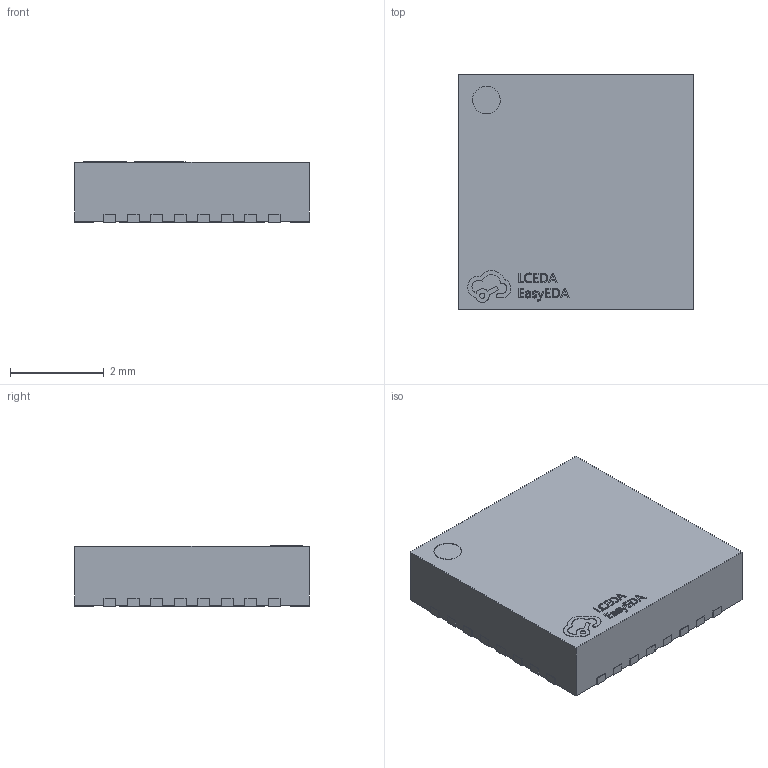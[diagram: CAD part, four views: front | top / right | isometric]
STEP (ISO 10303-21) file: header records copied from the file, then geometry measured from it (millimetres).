
FILE_DESCRIPTION(('Designed by EasyEDA Pro'),'2;1');
FILE_NAME('Open CASCADE Shape Model','2024-08-31T16:36:57',('Author'),( 'Open CASCADE'),'Open CASCADE STEP processor 7.6','Open CASCADE 7.8' ,'Unknown');
FILE_SCHEMA(('AUTOMOTIVE_DESIGN_CC2 { 1 2 10303 214 -1 1 5 4 }'));
Length unit declared in the file: millimetre
Products named in the file (4): PCBModel; u3tk-U1; QFN-32_L5.0-W5.0-P0.50-TL-EP3.1; SOLID
Assembly tree (3 placements, depth 4):
  PCBModel
    u3tk-U1
      QFN-32_L5.0-W5.0-P0.50-TL-EP3.1
        SOLID
Bounding box: 5.02 x 5.02 x 1.28 mm (x, y, z)
Volume: 31.5 mm3; surface area: 76.5 mm2
Topology: 1 solids, 1 shells, 495 faces, 1416 edges, 944 vertices
Faces by surface type: plane 331, bspline 100, cylinder 64
Entity records: 21148 total; most frequent: CARTESIAN_POINT 4231, ORIENTED_EDGE 2832, DIRECTION 2138, EDGE_CURVE 1416, LINE 1084, VECTOR 1084, VERTEX_POINT 944, AXIS2_PLACEMENT_3D 527
